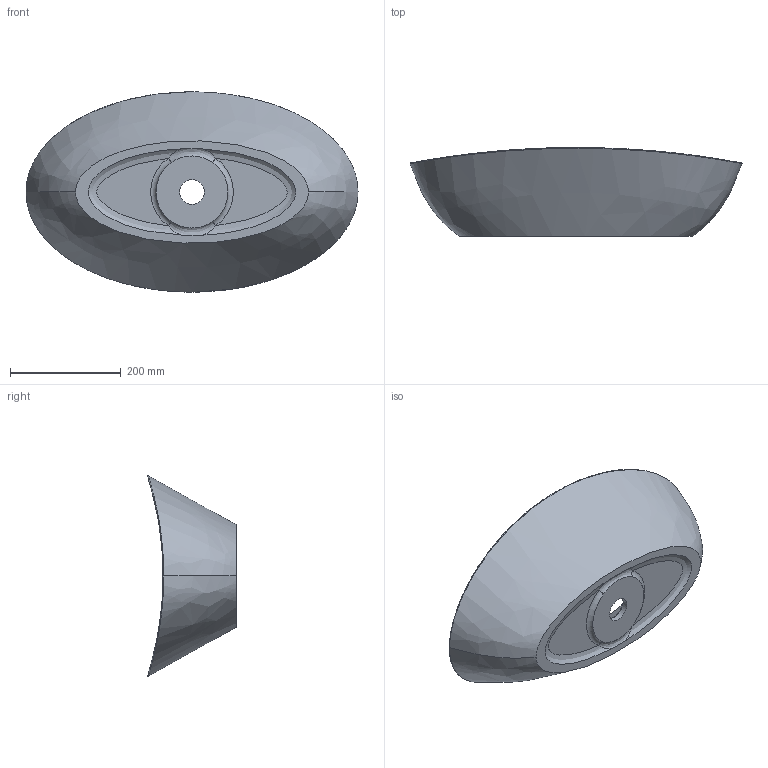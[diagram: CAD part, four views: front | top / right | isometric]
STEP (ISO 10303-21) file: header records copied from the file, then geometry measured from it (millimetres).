
FILE_DESCRIPTION(/* description */ (''),/* implementation_level */ '2;1');
FILE_NAME(/* name */ 'c:\worker\convert-fusion-r09\tmp\job-1\38\output\files\90b0b905-a1d3-4e83-b6e9-3e5b2ce79278\7a81aac3-c8f8-423d-88f9-3e0efa882496.zip.stp',/* time_stamp */ '2020-01-07T08:51:12+00:00',/* author */ (''),/* organization */ (''),/* preprocessor_version */ 'ST-DEVELOPER v18',/* originating_system */ 'Autodesk Translation Framework v8.12.0.6',/* authorisation */ '');
FILE_SCHEMA (('AUTOMOTIVE_DESIGN { 1 0 10303 214 3 1 1 }'));
Length unit declared in the file: millimetre
Products named in the file (1): barcelona UN
Bounding box: 599.15 x 160.07 x 361.36 mm (x, y, z)
Volume: 4934285.7 mm3; surface area: 527103.1 mm2
Topology: 1 solids, 1 shells, 24 faces, 60 edges, 38 vertices
Faces by surface type: bspline 16, plane 4, torus 2, cylinder 1, cone 1
Full cylindrical faces by diameter (mm): 44 x1
Entity records: 11305 total; most frequent: CARTESIAN_POINT 10811, ORIENTED_EDGE 120, EDGE_CURVE 60, DIRECTION 58, B_SPLINE_CURVE_WITH_KNOTS 38, VERTEX_POINT 38, AXIS2_PLACEMENT_3D 27, EDGE_LOOP 26
